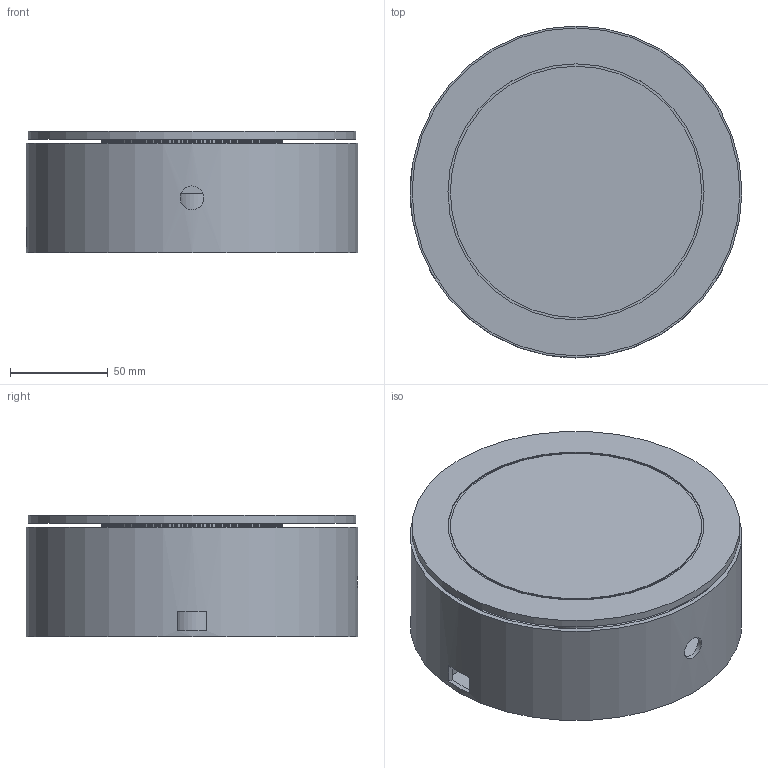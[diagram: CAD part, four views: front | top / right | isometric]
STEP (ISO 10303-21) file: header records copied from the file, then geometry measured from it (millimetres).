
FILE_DESCRIPTION(('Open CASCADE Model'),'2;1');
FILE_NAME('draaitafel','2026-10-20T12:04:09',('Author'),('Open CASCADE') ,'Open CASCADE STEP processor 8.0','build123d','Unknown');
FILE_SCHEMA(('AUTOMOTIVE_DESIGN { 1 0 10303 214 1 1 1 1 }'));
Length unit declared in the file: millimetre
Products named in the file (4): draaitafel; COMPOUND
Assembly tree (3 placements, depth 2):
  draaitafel
    COMPOUND
    COMPOUND
    COMPOUND
Bounding box: 170 x 170 x 62 mm (x, y, z)
Volume: 248582.5 mm3; surface area: 167775.6 mm2
Topology: 3 solids, 3 shells, 1678 faces, 4962 edges, 3308 vertices
Faces by surface type: plane 1656, cylinder 22
Full cylindrical faces by diameter (mm): 2.6 x2, 8.4 x2, 11.5 x1, 12.2 x1, 19.5 x1, 22.15 x1, 24 x1, 30 x1, 76 x1, 128.8 x1, 131.2 x1, 165.2 x1, 168 x1, 170 x1
Entity records: 119806 total; most frequent: CARTESIAN_POINT 20286, DIRECTION 18268, LINE 14764, VECTOR 14764, ORIENTED_EDGE 9924, PCURVE 9924, DEFINITIONAL_REPRESENTATION 9924, EDGE_CURVE 4962
